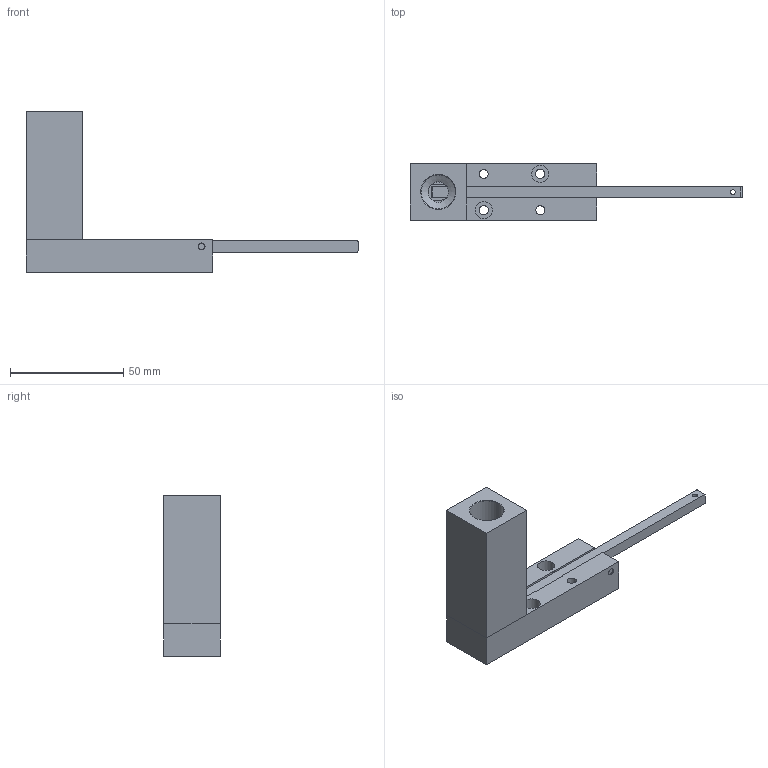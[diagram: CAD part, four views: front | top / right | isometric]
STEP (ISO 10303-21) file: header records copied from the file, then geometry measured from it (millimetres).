
FILE_DESCRIPTION(/* description */ (''),/* implementation_level */ '2;1');
FILE_NAME(/* name */ 'C:\Local Work Area\Progetti\AP\CALIBRI\4XX.00 BILANCINO\4xx.00\400.00.stp',/* time_stamp */ '2019-10-24T08:58:02+02:00',/* author */ ('CAD5'),/* organization */ (''),/* preprocessor_version */ 'ST-DEVELOPER v17.2',/* originating_system */ 'Autodesk Inventor 2019',/* authorisation */ '');
FILE_SCHEMA (('AUTOMOTIVE_DESIGN { 1 0 10303 214 3 1 1 }'));
Length unit declared in the file: millimetre
Products named in the file (8): 400.00; 182.02; 182.01; 400.01; ISO 2338 - 3 m6 x 24 - A; UNI 5931 - M 4 x  16; D10330; D10330_1
Assembly tree (11 placements, depth 3):
  400.00
    182.02
    182.01
    400.01
    ISO 2338 - 3 m6 x 24 - A
    UNI 5931 - M 4 x  16  x4
    D10330
      D10330_1  x2
Bounding box: 146.5 x 25 x 71 mm (x, y, z)
Volume: 56151.7 mm3; surface area: 24274.9 mm2
Topology: 10 solids, 10 shells, 172 faces, 484 edges, 339 vertices
Faces by surface type: plane 80, cylinder 54, torus 22, cone 16
Full cylindrical faces by diameter (mm): 2.013 x1, 2.3 x2, 2.7 x2, 3 x6, 3.242 x4, 4 x6, 4.1 x6, 7 x4, 7.5 x6, 9 x1, 15 x1
Entity records: 4314 total; most frequent: CARTESIAN_POINT 792, DIRECTION 741, ORIENTED_EDGE 638, EDGE_CURVE 319, AXIS2_PLACEMENT_3D 300, VERTEX_POINT 226, CIRCLE 164, EDGE_LOOP 155
